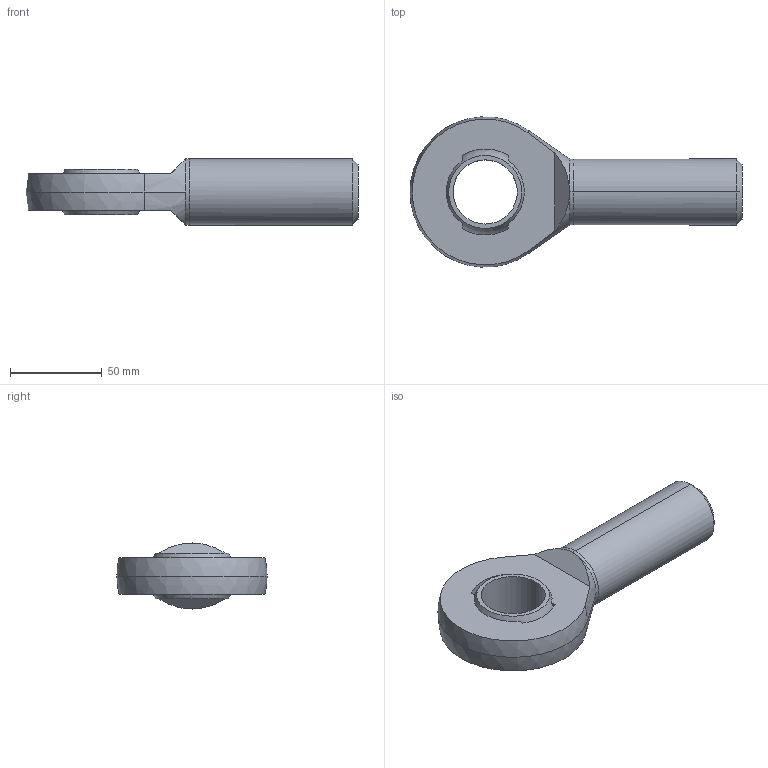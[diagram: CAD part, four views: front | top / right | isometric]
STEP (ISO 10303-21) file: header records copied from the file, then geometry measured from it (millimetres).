
FILE_DESCRIPTION (( 'STEP AP203' ), '1' );
FILE_NAME ('65860.W0035.step', '2014-02-06T11:44:35', ( 'User' ), ( '' ), 'SwSTEP 2.0', 'SolidWorks 2009', '' );
FILE_SCHEMA (( 'CONFIG_CONTROL_DESIGN' ));
Length unit declared in the file: millimetre
Products named in the file (3): Part1_65860.W0035; Part2_65860.W0035; 65860.W0035
Assembly tree (2 placements, depth 2):
  65860.W0035
    Part2_65860.W0035
    Part1_65860.W0035
Bounding box: 181 x 81.83 x 36 mm (x, y, z)
Volume: 189222.8 mm3; surface area: 33960.1 mm2
Topology: 2 solids, 2 shells, 35 faces, 82 edges, 51 vertices
Faces by surface type: plane 15, cylinder 8, sphere 8, cone 4
Entity records: 1389 total; most frequent: CARTESIAN_POINT 263, DIRECTION 196, ORIENTED_EDGE 160, AXIS2_PLACEMENT_3D 84, EDGE_CURVE 80, VERTEX_POINT 51, CIRCLE 44, EDGE_LOOP 41
